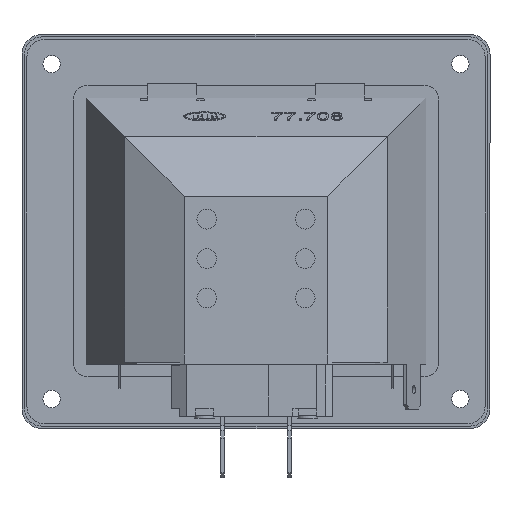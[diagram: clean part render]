
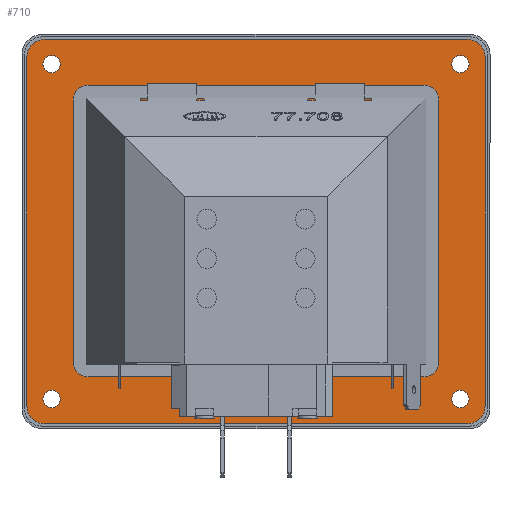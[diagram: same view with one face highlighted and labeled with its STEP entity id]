
A CAD part, left-side view. The second image highlights one B-rep face of the part: STEP entity #710.
In plain terms, the highlighted planar face has unit normal (-1, 0, 0) as drawn and (0, 0, -1) by its records, which use the part's own axes.
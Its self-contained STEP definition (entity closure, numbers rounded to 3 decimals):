
#710 = ADVANCED_FACE( '', ( #1802, #1803, #1804, #1805, #1806, #1807 ), #1808, .T. );
#1802 = FACE_BOUND( '', #3394, .T. );
#1803 = FACE_BOUND( '', #3395, .T. );
#1804 = FACE_BOUND( '', #3396, .T. );
#1805 = FACE_OUTER_BOUND( '', #3397, .T. );
#1806 = FACE_BOUND( '', #3398, .T. );
#1807 = FACE_BOUND( '', #3399, .T. );
#1808 = PLANE( '', #3400 );
#3394 = EDGE_LOOP( '', ( #5785, #5786, #5787, #5788 ) );
#3395 = EDGE_LOOP( '', ( #5789 ) );
#3396 = EDGE_LOOP( '', ( #5790 ) );
#3397 = EDGE_LOOP( '', ( #5791, #5792, #5793, #5794, #5795, #5796, #5797, #5798 ) );
#3398 = EDGE_LOOP( '', ( #5799 ) );
#3399 = EDGE_LOOP( '', ( #5800 ) );
#3400 = AXIS2_PLACEMENT_3D( '', #5801, #5802, #5803 );
#5785 = ORIENTED_EDGE( '', *, *, #10106, .F. );
#5786 = ORIENTED_EDGE( '', *, *, #10107, .F. );
#5787 = ORIENTED_EDGE( '', *, *, #10108, .F. );
#5788 = ORIENTED_EDGE( '', *, *, #10109, .F. );
#5789 = ORIENTED_EDGE( '', *, *, #10110, .T. );
#5790 = ORIENTED_EDGE( '', *, *, #10111, .T. );
#5791 = ORIENTED_EDGE( '', *, *, #10112, .T. );
#5792 = ORIENTED_EDGE( '', *, *, #10113, .T. );
#5793 = ORIENTED_EDGE( '', *, *, #10114, .T. );
#5794 = ORIENTED_EDGE( '', *, *, #10034, .T. );
#5795 = ORIENTED_EDGE( '', *, *, #10089, .T. );
#5796 = ORIENTED_EDGE( '', *, *, #10115, .T. );
#5797 = ORIENTED_EDGE( '', *, *, #10116, .T. );
#5798 = ORIENTED_EDGE( '', *, *, #10117, .T. );
#5799 = ORIENTED_EDGE( '', *, *, #10118, .T. );
#5800 = ORIENTED_EDGE( '', *, *, #10119, .T. );
#5801 = CARTESIAN_POINT( '', ( -43., -35.5, -0.5 ) );
#5802 = DIRECTION( '', ( 0., 0., -1. ) );
#5803 = DIRECTION( '', ( -1., 0., 0. ) );
#10034 = EDGE_CURVE( '', #11957, #11955, #11958, .T. );
#10089 = EDGE_CURVE( '', #11955, #12049, #12051, .T. );
#10106 = EDGE_CURVE( '', #12080, #12081, #12082, .T. );
#10107 = EDGE_CURVE( '', #12083, #12080, #12084, .T. );
#10108 = EDGE_CURVE( '', #12085, #12083, #12086, .T. );
#10109 = EDGE_CURVE( '', #12081, #12085, #12087, .T. );
#10110 = EDGE_CURVE( '', #12088, #12088, #12089, .T. );
#10111 = EDGE_CURVE( '', #12090, #12090, #12091, .T. );
#10112 = EDGE_CURVE( '', #12092, #12093, #12094, .T. );
#10113 = EDGE_CURVE( '', #12093, #12095, #12096, .T. );
#10114 = EDGE_CURVE( '', #12095, #11957, #12097, .T. );
#10115 = EDGE_CURVE( '', #12049, #12098, #12099, .T. );
#10116 = EDGE_CURVE( '', #12098, #12100, #12101, .T. );
#10117 = EDGE_CURVE( '', #12100, #12092, #12102, .T. );
#10118 = EDGE_CURVE( '', #12103, #12103, #12104, .T. );
#10119 = EDGE_CURVE( '', #12105, #12105, #12106, .T. );
#11955 = VERTEX_POINT( '', #14698 );
#11957 = VERTEX_POINT( '', #14701 );
#11958 = LINE( '', #14702, #14703 );
#12049 = VERTEX_POINT( '', #14824 );
#12051 = CIRCLE( '', #14827, 3.5 );
#12080 = VERTEX_POINT( '', #14870 );
#12081 = VERTEX_POINT( '', #14871 );
#12082 = LINE( '', #14872, #14873 );
#12083 = VERTEX_POINT( '', #14874 );
#12084 = LINE( '', #14875, #14876 );
#12085 = VERTEX_POINT( '', #14877 );
#12086 = LINE( '', #14878, #14879 );
#12087 = LINE( '', #14880, #14881 );
#12088 = VERTEX_POINT( '', #14882 );
#12089 = CIRCLE( '', #14883, 1.75 );
#12090 = VERTEX_POINT( '', #14884 );
#12091 = CIRCLE( '', #14885, 1.75 );
#12092 = VERTEX_POINT( '', #14886 );
#12093 = VERTEX_POINT( '', #14887 );
#12094 = CIRCLE( '', #14888, 3.5 );
#12095 = VERTEX_POINT( '', #14889 );
#12096 = LINE( '', #14890, #14891 );
#12097 = CIRCLE( '', #14892, 3.5 );
#12098 = VERTEX_POINT( '', #14893 );
#12099 = LINE( '', #14894, #14895 );
#12100 = VERTEX_POINT( '', #14896 );
#12101 = CIRCLE( '', #14897, 3.5 );
#12102 = LINE( '', #14898, #14899 );
#12103 = VERTEX_POINT( '', #14900 );
#12104 = CIRCLE( '', #14901, 1.75 );
#12105 = VERTEX_POINT( '', #14902 );
#12106 = CIRCLE( '', #14903, 1.75 );
#14698 = CARTESIAN_POINT( '', ( 43., 39., -0.5 ) );
#14701 = CARTESIAN_POINT( '', ( -43., 39., -0.5 ) );
#14702 = CARTESIAN_POINT( '', ( -43., 39., -0.5 ) );
#14703 = VECTOR( '', #18984, 1000. );
#14824 = CARTESIAN_POINT( '', ( 46.5, 35.5, -0.5 ) );
#14827 = AXIS2_PLACEMENT_3D( '', #19052, #19053, #19054 );
#14870 = CARTESIAN_POINT( '', ( 32.5, -25., -0.5 ) );
#14871 = CARTESIAN_POINT( '', ( -32.5, -25., -0.5 ) );
#14872 = CARTESIAN_POINT( '', ( 32.5, -25., -0.5 ) );
#14873 = VECTOR( '', #19069, 1000. );
#14874 = CARTESIAN_POINT( '', ( 32.5, 25., -0.5 ) );
#14875 = CARTESIAN_POINT( '', ( 32.5, 25., -0.5 ) );
#14876 = VECTOR( '', #19070, 1000. );
#14877 = CARTESIAN_POINT( '', ( -32.5, 25., -0.5 ) );
#14878 = CARTESIAN_POINT( '', ( -32.5, 25., -0.5 ) );
#14879 = VECTOR( '', #19071, 1000. );
#14880 = CARTESIAN_POINT( '', ( -32.5, -25., -0.5 ) );
#14881 = VECTOR( '', #19072, 1000. );
#14882 = CARTESIAN_POINT( '', ( -39.75, 34., -0.5 ) );
#14883 = AXIS2_PLACEMENT_3D( '', #19073, #19074, #19075 );
#14884 = CARTESIAN_POINT( '', ( 43.25, -34., -0.5 ) );
#14885 = AXIS2_PLACEMENT_3D( '', #19076, #19077, #19078 );
#14886 = CARTESIAN_POINT( '', ( -43., -39., -0.5 ) );
#14887 = CARTESIAN_POINT( '', ( -46.5, -35.5, -0.5 ) );
#14888 = AXIS2_PLACEMENT_3D( '', #19079, #19080, #19081 );
#14889 = CARTESIAN_POINT( '', ( -46.5, 35.5, -0.5 ) );
#14890 = CARTESIAN_POINT( '', ( -46.5, -35.5, -0.5 ) );
#14891 = VECTOR( '', #19082, 1000. );
#14892 = AXIS2_PLACEMENT_3D( '', #19083, #19084, #19085 );
#14893 = CARTESIAN_POINT( '', ( 46.5, -35.5, -0.5 ) );
#14894 = CARTESIAN_POINT( '', ( 46.5, 35.5, -0.5 ) );
#14895 = VECTOR( '', #19086, 1000. );
#14896 = CARTESIAN_POINT( '', ( 43., -39., -0.5 ) );
#14897 = AXIS2_PLACEMENT_3D( '', #19087, #19088, #19089 );
#14898 = CARTESIAN_POINT( '', ( 43., -39., -0.5 ) );
#14899 = VECTOR( '', #19090, 1000. );
#14900 = CARTESIAN_POINT( '', ( 43.25, 34., -0.5 ) );
#14901 = AXIS2_PLACEMENT_3D( '', #19091, #19092, #19093 );
#14902 = CARTESIAN_POINT( '', ( -39.75, -34., -0.5 ) );
#14903 = AXIS2_PLACEMENT_3D( '', #19094, #19095, #19096 );
#18984 = DIRECTION( '', ( 1., 0., 0. ) );
#19052 = CARTESIAN_POINT( '', ( 43., 35.5, -0.5 ) );
#19053 = DIRECTION( '', ( 0., 0., -1. ) );
#19054 = DIRECTION( '', ( -1., 0., 0. ) );
#19069 = DIRECTION( '', ( -1., 0., 0. ) );
#19070 = DIRECTION( '', ( 0., -1., 0. ) );
#19071 = DIRECTION( '', ( 1., 0., 0. ) );
#19072 = DIRECTION( '', ( 0., 1., 0. ) );
#19073 = CARTESIAN_POINT( '', ( -41.5, 34., -0.5 ) );
#19074 = DIRECTION( '', ( 0., 0., 1. ) );
#19075 = DIRECTION( '', ( 1., 0., 0. ) );
#19076 = CARTESIAN_POINT( '', ( 41.5, -34., -0.5 ) );
#19077 = DIRECTION( '', ( 0., 0., 1. ) );
#19078 = DIRECTION( '', ( 1., 0., 0. ) );
#19079 = CARTESIAN_POINT( '', ( -43., -35.5, -0.5 ) );
#19080 = DIRECTION( '', ( 0., 0., -1. ) );
#19081 = DIRECTION( '', ( 1., 0., 0. ) );
#19082 = DIRECTION( '', ( 0., 1., 0. ) );
#19083 = CARTESIAN_POINT( '', ( -43., 35.5, -0.5 ) );
#19084 = DIRECTION( '', ( 0., 0., -1. ) );
#19085 = DIRECTION( '', ( 1., 0., 0. ) );
#19086 = DIRECTION( '', ( 0., -1., 0. ) );
#19087 = CARTESIAN_POINT( '', ( 43., -35.5, -0.5 ) );
#19088 = DIRECTION( '', ( 0., 0., -1. ) );
#19089 = DIRECTION( '', ( 1., 0., 0. ) );
#19090 = DIRECTION( '', ( -1., 0., 0. ) );
#19091 = CARTESIAN_POINT( '', ( 41.5, 34., -0.5 ) );
#19092 = DIRECTION( '', ( 0., 0., 1. ) );
#19093 = DIRECTION( '', ( 1., 0., 0. ) );
#19094 = CARTESIAN_POINT( '', ( -41.5, -34., -0.5 ) );
#19095 = DIRECTION( '', ( 0., 0., 1. ) );
#19096 = DIRECTION( '', ( 1., 0., 0. ) );
